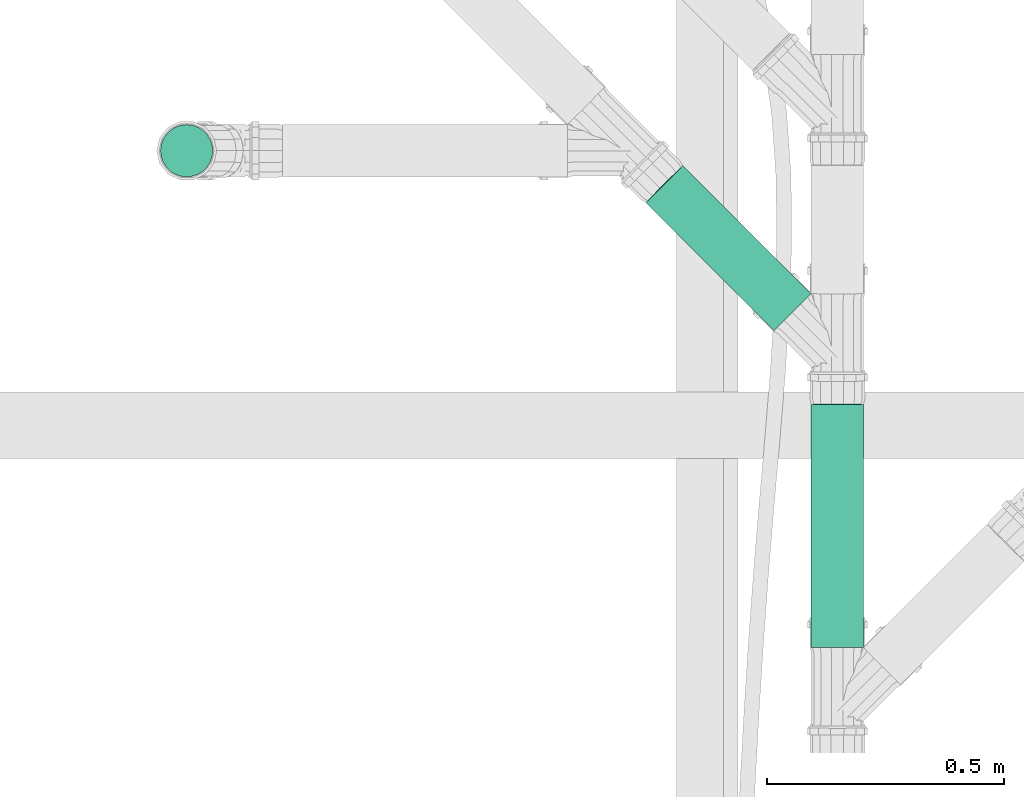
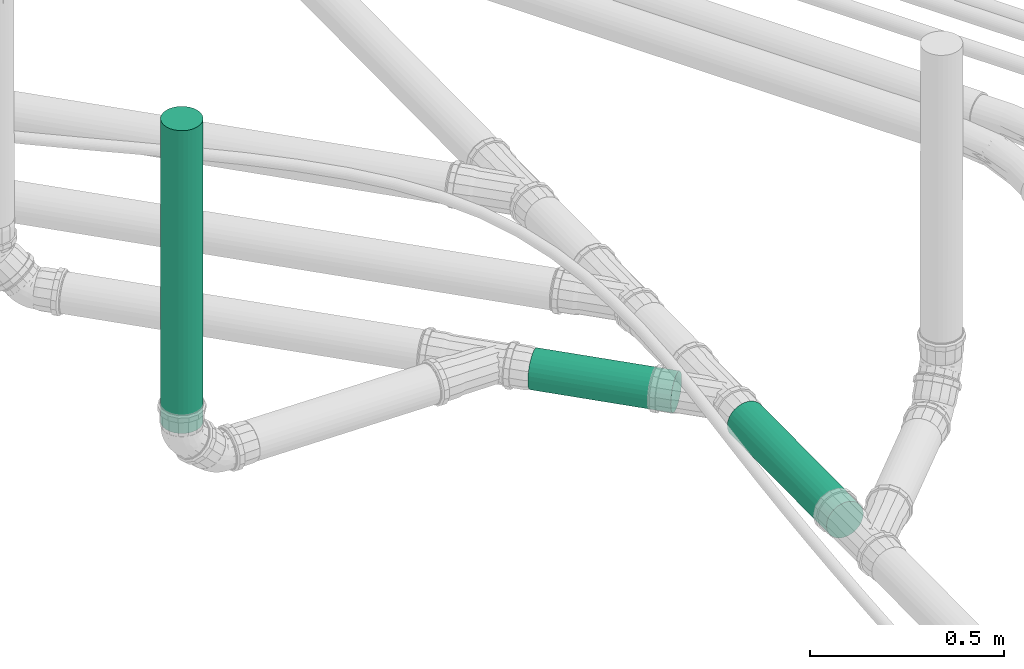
# One storey, part 8 of 18: 3 pipe segments.
"""IFC4 building model written with IfcOpenShell, lengths in centimetres."""

from ifc_helpers import new_model, entity, si_unit, converted_unit, derived_unit, direction, frame, origin, place, context, subcontext, project, spatial, arc, indexed_curve, outline, extrude, type_object, element, save


model = new_model("IFC4")

# Units and contexts
model_context = context("Model", 3, precision=0.001, world=origin(), true_north=direction((6.123233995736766e-17, 1.0)))
body_context = subcontext(model_context, "Body", "Model", "MODEL_VIEW")
ifc_project = project(units=[si_unit("LENGTHUNIT", "METRE", prefix="CENTI"), si_unit("AREAUNIT", "SQUARE_METRE"), converted_unit("PLANEANGLEUNIT", "DEGREE", entity("IfcPlaneAngleMeasure", 0.017453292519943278), si_unit("PLANEANGLEUNIT", "RADIAN"), dimensions=[0, 0, 0, 0, 0, 0, 0]), si_unit("VOLUMEUNIT", "CUBIC_METRE"), derived_unit("THERMALTRANSMITTANCEUNIT", [(si_unit("MASSUNIT", "GRAM", prefix="KILO"), 1), (si_unit("THERMODYNAMICTEMPERATUREUNIT", "KELVIN"), -1), (si_unit("TIMEUNIT", "SECOND"), -3)])], contexts=[model_context])

# Site, building, storey
site_placement = place(None, frame((-0.003347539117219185, 0.0, 0.0)))
site = spatial("IfcSite", under=ifc_project, at=site_placement, Name="Default", CompositionType="ELEMENT")
building_placement = place(site_placement, origin())
building = spatial("IfcBuilding", under=site, at=building_placement, CompositionType="ELEMENT")
storey_placement = place(building_placement, frame((0.0, 0.0, -30.0)))
storey = spatial("IfcBuildingStorey", under=building, at=storey_placement, Name="Fondation B.O.", CompositionType="ELEMENT", Elevation=-30.0)

# Pipe segments
pipe_segment_type = type_object("IfcPipeSegmentType", Name="Canalisation:Valsir PP3", PredefinedType="NOTDEFINED")
pipe_segment_1_placement = place(storey_placement, origin())
element("IfcPipeSegment", 1, at=pipe_segment_1_placement, inside=storey, type_object=pipe_segment_type, Name="Canalisation:Valsir PP3", ObjectType="Canalisation:Valsir PP3", PredefinedType="NOTDEFINED", context=body_context, shape_type="SweptSolid", body=[
    extrude(outline(indexed_curve([(5.500000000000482, 4.331468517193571e-13), (3.889087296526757, 3.8890872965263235), (8.662937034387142e-13, 5.500000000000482), (-3.889087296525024, 3.8890872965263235), (-5.4999999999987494, 4.331468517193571e-13), (-3.889087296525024, -3.8890872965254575), (8.662937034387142e-13, -5.499999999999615), (3.889087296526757, -3.8890872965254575)], segments=[arc(1, 2, 3), arc(3, 4, 5), arc(5, 6, 7), arc(7, 8, 1)], self_intersect=False)), frame((-6024.914996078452, -2255.046014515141, -25.373848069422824), z_axis=(0.0, 0.0, 1.0), x_axis=(-1.0, 0.0, 0.0)), (0.0, 0.0, 1.0), 95.37384806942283),
])
pipe_segment_2_placement = place(storey_placement, origin())
element("IfcPipeSegment", 2, at=pipe_segment_2_placement, inside=storey, type_object=pipe_segment_type, Name="Canalisation:Valsir PP3", ObjectType="Canalisation:Valsir PP3", PredefinedType="NOTDEFINED", context=body_context, shape_type="SweptSolid", body=[
    extrude(outline(indexed_curve([(5.499999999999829, -1.3974680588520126e-14), (3.8890872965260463, 3.889087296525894), (3.067209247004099e-13, 5.499999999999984), (-3.8890872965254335, 3.8890872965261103), (-5.499999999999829, 1.3974680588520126e-14), (-3.8890872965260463, -3.889087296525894), (-3.067209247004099e-13, -5.500000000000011), (3.8890872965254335, -3.8890872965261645)], segments=[arc(1, 2, 3), arc(3, 4, 5), arc(5, 6, 7), arc(7, 8, 1)], self_intersect=False)), frame((-5897.2868124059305, -2289.074318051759, -40.12107975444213), z_axis=(-0.7070714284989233, 0.707071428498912, 0.00999950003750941), x_axis=(0.7071067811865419, 0.7071067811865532, 0.0)), (0.0, 0.0, 1.0), 38.18269447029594),
])
pipe_segment_3_placement = place(storey_placement, origin())
element("IfcPipeSegment", 3, at=pipe_segment_3_placement, inside=storey, type_object=pipe_segment_type, Name="Canalisation:Valsir PP3", ObjectType="Canalisation:Valsir PP3", PredefinedType="NOTDEFINED", context=body_context, shape_type="SweptSolid", body=[
    extrude(outline(indexed_curve([(5.499999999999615, 2.4658276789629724e-16), (3.8890872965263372, 3.889087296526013), (3.8964826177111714e-15, 5.500000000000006), (-3.88908729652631, 3.889087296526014), (-5.499999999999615, 1.3288579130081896e-14), (-3.8890872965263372, -3.8890872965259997), (-3.8964826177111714e-15, -5.500000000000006), (3.88908729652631, -3.889087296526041)], segments=[arc(1, 2, 3), arc(3, 4, 5), arc(5, 6, 7), arc(7, 8, 1)], self_intersect=False)), frame((-5887.812056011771, -2359.717888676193, -40.86694172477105), z_axis=(1.4595771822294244e-08, 0.9999499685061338, 0.010003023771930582), x_axis=(-1.0, 1.4596502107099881e-08, 0.0)), (0.0, 0.0, 1.0), 51.22887365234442),
])

save(model, "model.ifc")
